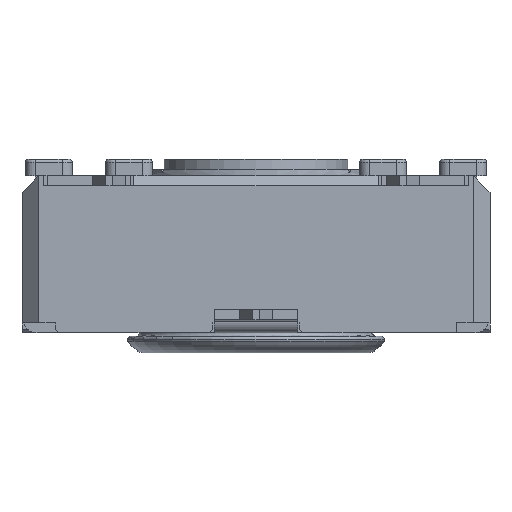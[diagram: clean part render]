
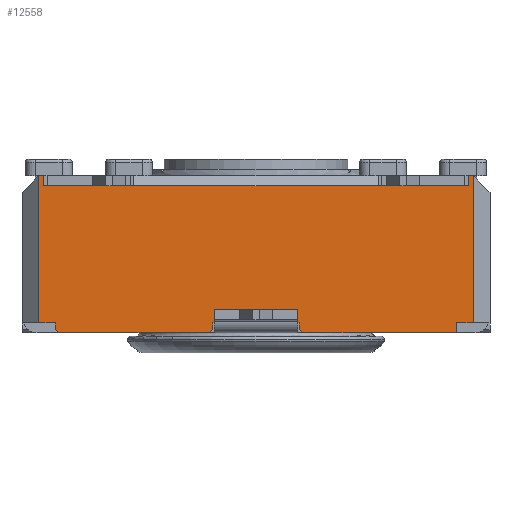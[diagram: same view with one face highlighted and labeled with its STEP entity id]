
A CAD part, front view. The second image highlights one B-rep face of the part: STEP entity #12558.
In plain terms, the highlighted planar face has unit normal (0, -1, 0).
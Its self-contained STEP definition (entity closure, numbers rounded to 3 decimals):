
#654=FACE_OUTER_BOUND('',#1323,.T.);
#1323=EDGE_LOOP('',(#8352,#8353,#8354,#8355,#8356,#8357,#8358,#8359,#8360,
#8361,#8362,#8363,#8364,#8365,#8366,#8367,#8368,#8369,#8370,#8371,#8372,
#8373,#8374,#8375,#8376,#8377,#8378));
#2009=LINE('',#17871,#3495);
#2018=LINE('',#17897,#3504);
#2023=LINE('',#17907,#3509);
#2103=LINE('',#18072,#3589);
#2128=LINE('',#18123,#3614);
#2154=LINE('',#18187,#3640);
#2155=LINE('',#18189,#3641);
#2156=LINE('',#18191,#3642);
#2157=LINE('',#18192,#3643);
#2158=LINE('',#18194,#3644);
#2159=LINE('',#18196,#3645);
#2160=LINE('',#18198,#3646);
#2161=LINE('',#18200,#3647);
#2162=LINE('',#18201,#3648);
#2163=LINE('',#18203,#3649);
#2164=LINE('',#18205,#3650);
#2165=LINE('',#18207,#3651);
#2166=LINE('',#18209,#3652);
#2167=LINE('',#18211,#3653);
#2168=LINE('',#18213,#3654);
#2169=LINE('',#18215,#3655);
#2170=LINE('',#18217,#3656);
#2171=LINE('',#18219,#3657);
#2172=LINE('',#18220,#3658);
#2173=LINE('',#18222,#3659);
#2174=LINE('',#18224,#3660);
#2175=LINE('',#18225,#3661);
#3495=VECTOR('',#14338,10.);
#3504=VECTOR('',#14369,10.);
#3509=VECTOR('',#14374,10.);
#3589=VECTOR('',#14482,10.);
#3614=VECTOR('',#14523,10.);
#3640=VECTOR('',#14571,10.);
#3641=VECTOR('',#14572,10.);
#3642=VECTOR('',#14573,10.);
#3643=VECTOR('',#14574,10.);
#3644=VECTOR('',#14575,10.);
#3645=VECTOR('',#14576,10.);
#3646=VECTOR('',#14577,10.);
#3647=VECTOR('',#14578,10.);
#3648=VECTOR('',#14579,10.);
#3649=VECTOR('',#14580,10.);
#3650=VECTOR('',#14581,10.);
#3651=VECTOR('',#14582,10.);
#3652=VECTOR('',#14583,10.);
#3653=VECTOR('',#14584,10.);
#3654=VECTOR('',#14585,10.);
#3655=VECTOR('',#14586,10.);
#3656=VECTOR('',#14587,10.);
#3657=VECTOR('',#14588,10.);
#3658=VECTOR('',#14589,10.);
#3659=VECTOR('',#14590,10.);
#3660=VECTOR('',#14591,10.);
#3661=VECTOR('',#14592,10.);
#4970=VERTEX_POINT('',#17851);
#4977=VERTEX_POINT('',#17870);
#4983=VERTEX_POINT('',#17896);
#4987=VERTEX_POINT('',#17904);
#4988=VERTEX_POINT('',#17906);
#5041=VERTEX_POINT('',#18020);
#5059=VERTEX_POINT('',#18071);
#5076=VERTEX_POINT('',#18120);
#5077=VERTEX_POINT('',#18122);
#5104=VERTEX_POINT('',#18186);
#5105=VERTEX_POINT('',#18188);
#5106=VERTEX_POINT('',#18190);
#5107=VERTEX_POINT('',#18193);
#5108=VERTEX_POINT('',#18195);
#5109=VERTEX_POINT('',#18197);
#5110=VERTEX_POINT('',#18199);
#5111=VERTEX_POINT('',#18202);
#5112=VERTEX_POINT('',#18204);
#5113=VERTEX_POINT('',#18206);
#5114=VERTEX_POINT('',#18208);
#5115=VERTEX_POINT('',#18210);
#5116=VERTEX_POINT('',#18212);
#5117=VERTEX_POINT('',#18214);
#5118=VERTEX_POINT('',#18216);
#5119=VERTEX_POINT('',#18218);
#5120=VERTEX_POINT('',#18221);
#5121=VERTEX_POINT('',#18223);
#6210=EDGE_CURVE('',#4970,#4977,#2009,.T.);
#6223=EDGE_CURVE('',#4983,#4970,#2018,.T.);
#6228=EDGE_CURVE('',#4988,#4987,#2023,.T.);
#6310=EDGE_CURVE('',#5059,#5041,#2103,.T.);
#6335=EDGE_CURVE('',#5077,#5076,#2128,.T.);
#6367=EDGE_CURVE('',#5041,#5104,#2154,.T.);
#6368=EDGE_CURVE('',#5104,#5105,#2155,.T.);
#6369=EDGE_CURVE('',#5105,#5106,#2156,.T.);
#6370=EDGE_CURVE('',#4988,#5106,#2157,.T.);
#6371=EDGE_CURVE('',#4987,#5107,#2158,.T.);
#6372=EDGE_CURVE('',#5108,#5107,#2159,.T.);
#6373=EDGE_CURVE('',#5108,#5109,#2160,.T.);
#6374=EDGE_CURVE('',#5110,#5109,#2161,.T.);
#6375=EDGE_CURVE('',#4983,#5110,#2162,.T.);
#6376=EDGE_CURVE('',#4977,#5111,#2163,.T.);
#6377=EDGE_CURVE('',#5111,#5112,#2164,.T.);
#6378=EDGE_CURVE('',#5113,#5112,#2165,.T.);
#6379=EDGE_CURVE('',#5113,#5114,#2166,.T.);
#6380=EDGE_CURVE('',#5114,#5115,#2167,.T.);
#6381=EDGE_CURVE('',#5115,#5116,#2168,.T.);
#6382=EDGE_CURVE('',#5117,#5116,#2169,.T.);
#6383=EDGE_CURVE('',#5117,#5118,#2170,.T.);
#6384=EDGE_CURVE('',#5118,#5119,#2171,.T.);
#6385=EDGE_CURVE('',#5119,#5077,#2172,.T.);
#6386=EDGE_CURVE('',#5076,#5120,#2173,.T.);
#6387=EDGE_CURVE('',#5121,#5120,#2174,.T.);
#6388=EDGE_CURVE('',#5121,#5059,#2175,.T.);
#8352=ORIENTED_EDGE('',*,*,#6310,.T.);
#8353=ORIENTED_EDGE('',*,*,#6367,.T.);
#8354=ORIENTED_EDGE('',*,*,#6368,.T.);
#8355=ORIENTED_EDGE('',*,*,#6369,.T.);
#8356=ORIENTED_EDGE('',*,*,#6370,.F.);
#8357=ORIENTED_EDGE('',*,*,#6228,.T.);
#8358=ORIENTED_EDGE('',*,*,#6371,.T.);
#8359=ORIENTED_EDGE('',*,*,#6372,.F.);
#8360=ORIENTED_EDGE('',*,*,#6373,.T.);
#8361=ORIENTED_EDGE('',*,*,#6374,.F.);
#8362=ORIENTED_EDGE('',*,*,#6375,.F.);
#8363=ORIENTED_EDGE('',*,*,#6223,.T.);
#8364=ORIENTED_EDGE('',*,*,#6210,.T.);
#8365=ORIENTED_EDGE('',*,*,#6376,.T.);
#8366=ORIENTED_EDGE('',*,*,#6377,.T.);
#8367=ORIENTED_EDGE('',*,*,#6378,.F.);
#8368=ORIENTED_EDGE('',*,*,#6379,.T.);
#8369=ORIENTED_EDGE('',*,*,#6380,.T.);
#8370=ORIENTED_EDGE('',*,*,#6381,.T.);
#8371=ORIENTED_EDGE('',*,*,#6382,.F.);
#8372=ORIENTED_EDGE('',*,*,#6383,.T.);
#8373=ORIENTED_EDGE('',*,*,#6384,.T.);
#8374=ORIENTED_EDGE('',*,*,#6385,.T.);
#8375=ORIENTED_EDGE('',*,*,#6335,.T.);
#8376=ORIENTED_EDGE('',*,*,#6386,.T.);
#8377=ORIENTED_EDGE('',*,*,#6387,.F.);
#8378=ORIENTED_EDGE('',*,*,#6388,.T.);
#11843=PLANE('',#13273);
#12558=ADVANCED_FACE('',(#654),#11843,.T.);
#13273=AXIS2_PLACEMENT_3D('',#18185,#14569,#14570);
#14338=DIRECTION('',(1.,0.,0.));
#14369=DIRECTION('',(1.,0.,0.));
#14374=DIRECTION('',(1.,0.,0.));
#14482=DIRECTION('',(-1.,0.,0.));
#14523=DIRECTION('',(-1.,0.,0.));
#14569=DIRECTION('center_axis',(0.,-1.,0.));
#14570=DIRECTION('ref_axis',(0.,0.,-1.));
#14571=DIRECTION('',(-1.,0.,0.));
#14572=DIRECTION('',(0.,0.,1.));
#14573=DIRECTION('',(-1.,0.,0.));
#14574=DIRECTION('',(0.,0.,1.));
#14575=DIRECTION('',(0.,0.,-1.));
#14576=DIRECTION('',(-0.707,0.,0.707));
#14577=DIRECTION('',(1.,0.,0.));
#14578=DIRECTION('',(-0.707,0.,-0.707));
#14579=DIRECTION('',(0.,0.,-1.));
#14580=DIRECTION('',(1.,0.,0.));
#14581=DIRECTION('',(0.,0.,-1.));
#14582=DIRECTION('',(-0.707,0.,0.707));
#14583=DIRECTION('',(1.,0.,0.));
#14584=DIRECTION('',(0.,0.,1.));
#14585=DIRECTION('',(1.,0.,0.));
#14586=DIRECTION('',(0.,0.,-1.));
#14587=DIRECTION('',(-1.,0.,0.));
#14588=DIRECTION('',(0.,0.,-1.));
#14589=DIRECTION('',(-1.,0.,0.));
#14590=DIRECTION('',(-1.,0.,0.));
#14591=DIRECTION('',(1.,0.,0.));
#14592=DIRECTION('',(-1.,0.,0.));
#17851=CARTESIAN_POINT('',(-8.717,-9.898,0.));
#17870=CARTESIAN_POINT('',(-6.217,-9.898,0.));
#17871=CARTESIAN_POINT('',(-14.467,-9.898,0.));
#17896=CARTESIAN_POINT('',(-8.767,-9.898,0.));
#17897=CARTESIAN_POINT('',(-14.467,-9.898,0.));
#17904=CARTESIAN_POINT('',(-13.467,-9.898,0.));
#17906=CARTESIAN_POINT('',(-13.967,-9.898,0.));
#17907=CARTESIAN_POINT('',(-7.245,-9.898,0.));
#18020=CARTESIAN_POINT('',(-13.717,-9.898,4.1));
#18071=CARTESIAN_POINT('',(-11.217,-9.898,4.1));
#18072=CARTESIAN_POINT('',(-6.341,-9.898,4.1));
#18120=CARTESIAN_POINT('',(-3.717,-9.898,4.1));
#18122=CARTESIAN_POINT('',(-1.217,-9.898,4.1));
#18123=CARTESIAN_POINT('',(-1.593,-9.898,4.1));
#18185=CARTESIAN_POINT('Origin',(-0.467,-9.898,0.));
#18186=CARTESIAN_POINT('',(-13.817,-9.898,4.1));
#18187=CARTESIAN_POINT('',(-3.944,-9.898,4.1));
#18188=CARTESIAN_POINT('',(-13.817,-9.898,4.4));
#18189=CARTESIAN_POINT('',(-13.817,-9.898,2.2));
#18190=CARTESIAN_POINT('',(-13.967,-9.898,4.4));
#18191=CARTESIAN_POINT('',(-14.467,-9.898,4.4));
#18192=CARTESIAN_POINT('',(-13.967,-9.898,0.));
#18193=CARTESIAN_POINT('',(-13.467,-9.898,-0.2));
#18194=CARTESIAN_POINT('',(-13.467,-9.898,-0.15));
#18195=CARTESIAN_POINT('',(-13.367,-9.898,-0.3));
#18196=CARTESIAN_POINT('',(-10.242,-9.898,-3.425));
#18197=CARTESIAN_POINT('',(-8.867,-9.898,-0.3));
#18198=CARTESIAN_POINT('',(-0.467,-9.898,-0.3));
#18199=CARTESIAN_POINT('',(-8.767,-9.898,-0.2));
#18200=CARTESIAN_POINT('',(-6.667,-9.898,1.9));
#18201=CARTESIAN_POINT('',(-8.767,-9.898,0.));
#18202=CARTESIAN_POINT('',(-6.167,-9.898,0.));
#18203=CARTESIAN_POINT('',(-14.467,-9.898,0.));
#18204=CARTESIAN_POINT('',(-6.167,-9.898,-0.2));
#18205=CARTESIAN_POINT('',(-6.167,-9.898,0.));
#18206=CARTESIAN_POINT('',(-6.067,-9.898,-0.3));
#18207=CARTESIAN_POINT('',(-4.767,-9.898,-1.6));
#18208=CARTESIAN_POINT('',(-1.467,-9.898,-0.3));
#18209=CARTESIAN_POINT('',(-0.467,-9.898,-0.3));
#18210=CARTESIAN_POINT('',(-1.467,-9.898,0.));
#18211=CARTESIAN_POINT('',(-1.467,-9.898,-0.15));
#18212=CARTESIAN_POINT('',(-0.967,-9.898,0.));
#18213=CARTESIAN_POINT('',(-0.646,-9.898,0.));
#18214=CARTESIAN_POINT('',(-0.967,-9.898,4.4));
#18215=CARTESIAN_POINT('',(-0.967,-9.898,0.));
#18216=CARTESIAN_POINT('',(-1.117,-9.898,4.4));
#18217=CARTESIAN_POINT('',(-14.467,-9.898,4.4));
#18218=CARTESIAN_POINT('',(-1.117,-9.898,4.1));
#18219=CARTESIAN_POINT('',(-1.117,-9.898,2.2));
#18220=CARTESIAN_POINT('',(-1.862,-9.898,4.1));
#18221=CARTESIAN_POINT('',(-3.817,-9.898,4.1));
#18222=CARTESIAN_POINT('',(-1.862,-9.898,4.1));
#18223=CARTESIAN_POINT('',(-11.117,-9.898,4.1));
#18224=CARTESIAN_POINT('',(-3.967,-9.898,4.1));
#18225=CARTESIAN_POINT('',(-3.944,-9.898,4.1));
